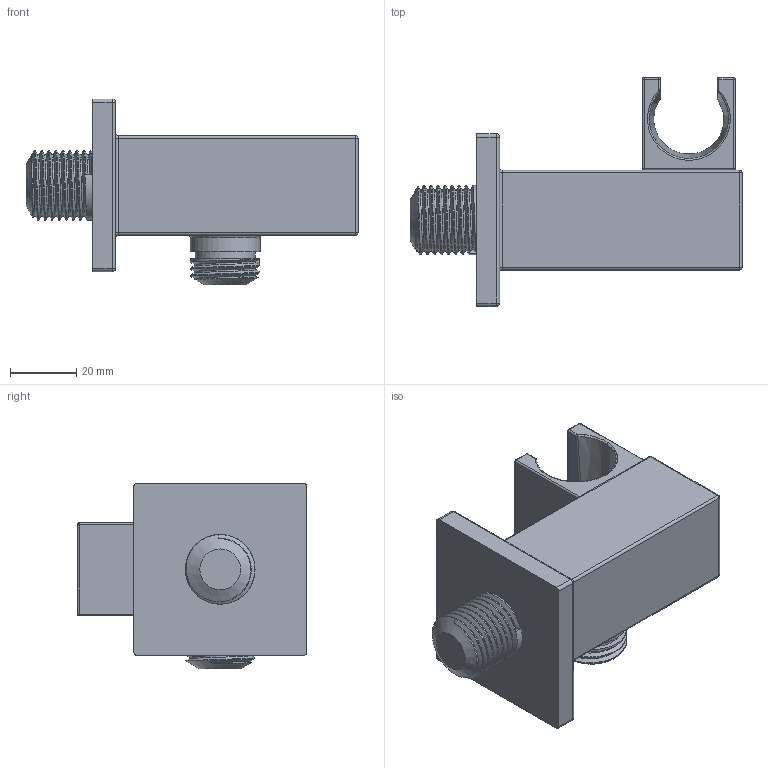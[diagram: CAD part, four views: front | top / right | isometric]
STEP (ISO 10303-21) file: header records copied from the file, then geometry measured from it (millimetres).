
FILE_DESCRIPTION(('STEP AP242'), '1');
FILE_NAME('50PZ480Q', '', ('UNSPECIFIED'), ('UNSPECIFIED'), 'ASCON STEP Converter 1.6', 'ASCON Math Kernel', '');
FILE_SCHEMA(('AP242_MANAGED_MODEL_BASED_3D_ENGINEERING_MIM_LF { 1 0 10303 442 1 1 4 }'));
Length unit declared in the file: millimetre
Bounding box: 100 x 69 x 56 mm (x, y, z)
Volume: 104521.9 mm3; surface area: 23277.7 mm2
Topology: 4 solids, 4 shells, 130 faces, 302 edges, 170 vertices
Faces by surface type: cylinder 58, plane 30, sphere 20, bspline 12, torus 7, cone 3
Full cylindrical faces by diameter (mm): 0.02 x2, 0.04 x2, 18 x1, 20.955 x1, 21 x1
Entity records: 19699 total; most frequent: CARTESIAN_POINT 15927, DIRECTION 550, ORIENTED_EDGE 514, EDGE_CURVE 257, AXIS2_PLACEMENT_3D 224, VERTEX_POINT 151, EDGE_LOOP 148, COLOUR_RGB 142
